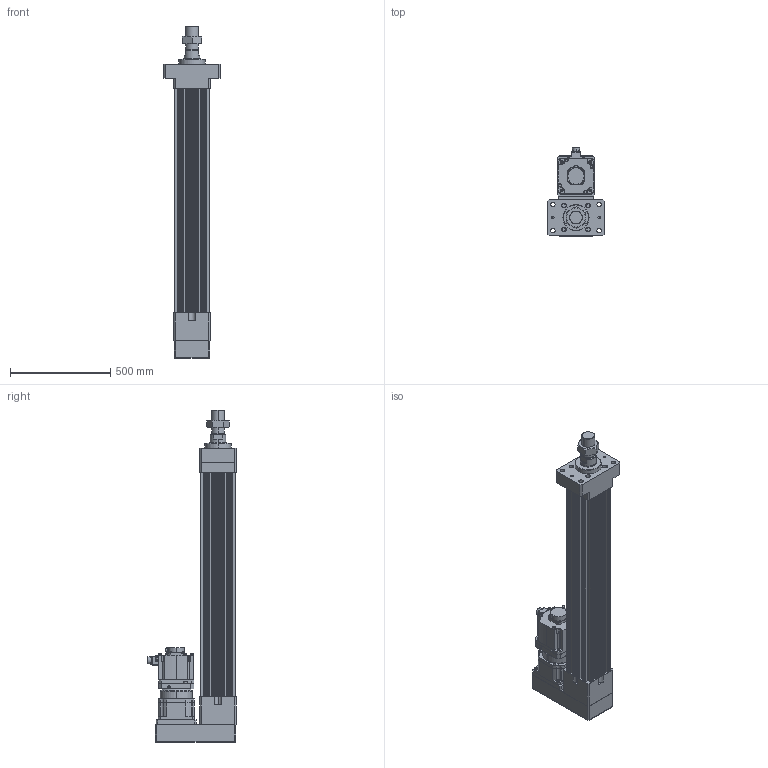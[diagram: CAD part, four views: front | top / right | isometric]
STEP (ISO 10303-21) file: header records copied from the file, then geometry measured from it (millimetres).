
FILE_DESCRIPTION (( 'STEP AP203' ), '1' );
FILE_NAME ('HES180HS-P800-W050G00-M-FMA.STEP', '2023-02-01T08:33:47', ( 'tms' ), ( '' ), 'SwSTEP 2.0', 'SolidWorks 2013', '' );
FILE_SCHEMA (( 'CONFIG_CONTROL_DESIGN' ));
Length unit declared in the file: millimetre
Products named in the file (9): HG-SR502; AB1801; HES180HS-P800-W050G00-M-FMA; HES180-P800-G180-FMA; M64X2.0P; HES180 ROD M ST800; P1301600001; AB180-003[HG-SR702B]; P0403600401
Assembly tree (8 placements, depth 3):
  HES180HS-P800-W050G00-M-FMA
    HES180-P800-G180-FMA
    HES180 ROD M ST800
    M64X2.0P
    AB180-003[HG-SR702B]
      AB1801
      P1301600001
      P0403600401
    HG-SR502
Bounding box: 280 x 438.85 x 1652 mm (x, y, z)
Volume: 34819726.7 mm3; surface area: 3114952.3 mm2
Topology: 4 solids, 19 shells, 1431 faces, 3715 edges, 2410 vertices
Faces by surface type: cylinder 663, plane 555, cone 146, bspline 63, torus 4
Entity records: 52578 total; most frequent: CARTESIAN_POINT 15982, DIRECTION 7693, ORIENTED_EDGE 7330, EDGE_CURVE 3689, AXIS2_PLACEMENT_3D 2901, VERTEX_POINT 2410, LINE 1891, VECTOR 1891
